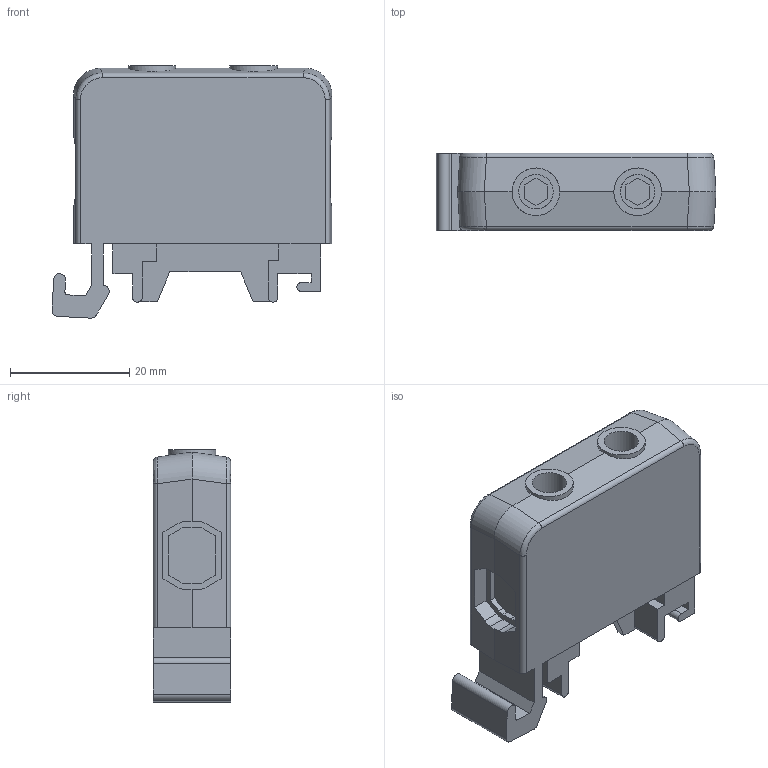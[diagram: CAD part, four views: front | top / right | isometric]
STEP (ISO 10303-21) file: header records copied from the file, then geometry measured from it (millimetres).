
FILE_DESCRIPTION(/* description */ ('Unknown'),/* implementation_level */ '2;1');
FILE_NAME(/* name */ 'utb 16',/* time_stamp */ '2021-04-01T13:08:55+02:00',/* author */ ('Unknown'),/* organization */ ('Unknown'),/* preprocessor_version */ 'ST-DEVELOPER v16.7',/* originating_system */ 'Solid Edge',/* authorisation */ 'Unknown');
FILE_SCHEMA (('AUTOMOTIVE_DESIGN {1 0 10303 214 3 1 1}'));
Length unit declared in the file: millimetre
Products named in the file (1): utb 16
Bounding box: 47.03 x 13 x 42.38 mm (x, y, z)
Volume: 17157.6 mm3; surface area: 6524 mm2
Topology: 1 solids, 1 shells, 146 faces, 401 edges, 264 vertices
Faces by surface type: plane 104, cylinder 38, bspline 4
Full cylindrical faces by diameter (mm): 5.8 x2, 8 x2
Entity records: 4623 total; most frequent: CARTESIAN_POINT 856, ORIENTED_EDGE 786, DIRECTION 763, EDGE_CURVE 393, LINE 309, VECTOR 309, VERTEX_POINT 260, AXIS2_PLACEMENT_3D 227
